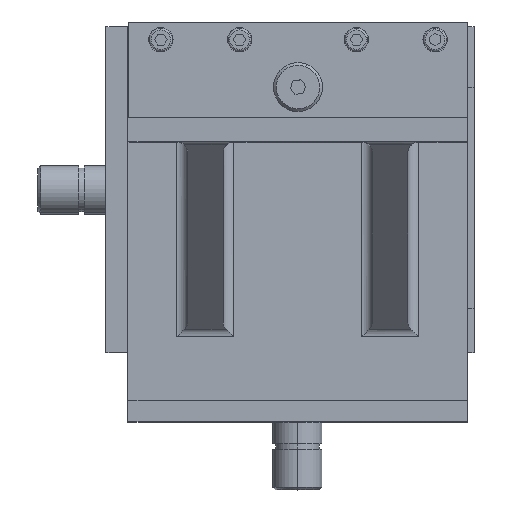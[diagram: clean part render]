
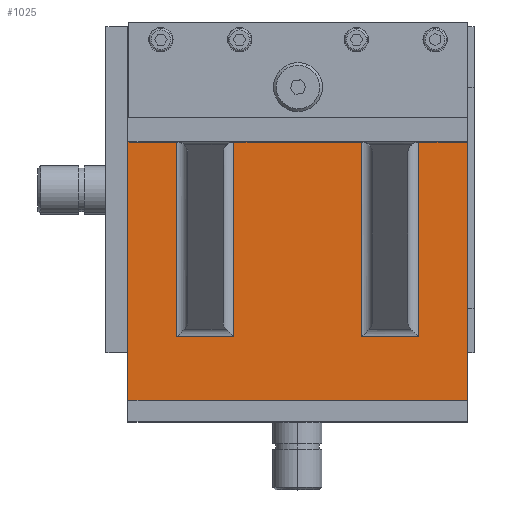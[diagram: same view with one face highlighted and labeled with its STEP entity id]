
A CAD part, top view. The second image highlights one B-rep face of the part: STEP entity #1025.
In plain terms, the highlighted planar face has unit normal (0, 0, 1).
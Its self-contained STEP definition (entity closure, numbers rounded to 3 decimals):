
#1025=ADVANCED_FACE('',(#2519),#2520,.F.);
#2519=FACE_OUTER_BOUND('',#4795,.T.);
#2520=PLANE('',#4796);
#4795=EDGE_LOOP('',(#7175,#7176,#7177,#7178,#7179,#7180,#7181,#7182,#7183,#7184,#7185,#7186));
#4796=AXIS2_PLACEMENT_3D('',#7187,#7188,#7189);
#7175=ORIENTED_EDGE('',*,*,#12531,.T.);
#7176=ORIENTED_EDGE('',*,*,#12521,.T.);
#7177=ORIENTED_EDGE('',*,*,#12545,.T.);
#7178=ORIENTED_EDGE('',*,*,#12547,.T.);
#7179=ORIENTED_EDGE('',*,*,#12539,.T.);
#7180=ORIENTED_EDGE('',*,*,#12548,.T.);
#7181=ORIENTED_EDGE('',*,*,#12549,.T.);
#7182=ORIENTED_EDGE('',*,*,#12550,.T.);
#7183=ORIENTED_EDGE('',*,*,#12535,.T.);
#7184=ORIENTED_EDGE('',*,*,#12551,.F.);
#7185=ORIENTED_EDGE('',*,*,#12552,.F.);
#7186=ORIENTED_EDGE('',*,*,#12553,.T.);
#7187=CARTESIAN_POINT('',(-125.082,-104.0,-112.5));
#7188=DIRECTION('',(0.,0.,-1.0));
#7189=DIRECTION('',(0.0,-1.0,0.));
#12521=EDGE_CURVE('',#14753,#14768,#14770,.T.);
#12531=EDGE_CURVE('',#14785,#14753,#14786,.T.);
#12535=EDGE_CURVE('',#14793,#14791,#14794,.T.);
#12539=EDGE_CURVE('',#14801,#14799,#14802,.T.);
#12545=EDGE_CURVE('',#14768,#14807,#14809,.T.);
#12547=EDGE_CURVE('',#14807,#14801,#14811,.T.);
#12548=EDGE_CURVE('',#14799,#14812,#14813,.T.);
#12549=EDGE_CURVE('',#14812,#14814,#14815,.T.);
#12550=EDGE_CURVE('',#14814,#14793,#14816,.T.);
#12551=EDGE_CURVE('',#14817,#14791,#14818,.T.);
#12552=EDGE_CURVE('',#14819,#14817,#14820,.T.);
#12553=EDGE_CURVE('',#14819,#14785,#14821,.T.);
#14753=VERTEX_POINT('',#18094);
#14768=VERTEX_POINT('',#18139);
#14770=LINE('',#18151,#18152);
#14785=VERTEX_POINT('',#18189);
#14786=LINE('',#18190,#18191);
#14791=VERTEX_POINT('',#18198);
#14793=VERTEX_POINT('',#18201);
#14794=LINE('',#18202,#18203);
#14799=VERTEX_POINT('',#18210);
#14801=VERTEX_POINT('',#18213);
#14802=LINE('',#18214,#18215);
#14807=VERTEX_POINT('',#18231);
#14809=LINE('',#18243,#18244);
#14811=LINE('',#18246,#18247);
#14812=VERTEX_POINT('',#18248);
#14813=LINE('',#18249,#18250);
#14814=VERTEX_POINT('',#18251);
#14815=LINE('',#18252,#18253);
#14816=LINE('',#18254,#18255);
#14817=VERTEX_POINT('',#18256);
#14818=LINE('',#18257,#18258);
#14819=VERTEX_POINT('',#18259);
#14820=LINE('',#18260,#18261);
#14821=LINE('',#18262,#18263);
#18094=CARTESIAN_POINT('',(-18.082,-9.,-112.5));
#18139=CARTESIAN_POINT('',(-18.082,-80.657,-112.5));
#18151=CARTESIAN_POINT('',(-18.082,-104.0,-112.5));
#18152=VECTOR('',#22883,1000.0);
#18189=CARTESIAN_POINT('',(-0.082,-9.,-112.5));
#18190=CARTESIAN_POINT('',(-0.082,-9.,-112.5));
#18191=VECTOR('',#22888,1000.0);
#18198=CARTESIAN_POINT('',(-125.082,-9.,-112.5));
#18201=CARTESIAN_POINT('',(-107.082,-9.,-112.5));
#18202=CARTESIAN_POINT('',(-0.082,-9.,-112.5));
#18203=VECTOR('',#22892,1000.0);
#18210=CARTESIAN_POINT('',(-86.082,-9.,-112.5));
#18213=CARTESIAN_POINT('',(-39.082,-9.,-112.5));
#18214=CARTESIAN_POINT('',(-0.082,-9.,-112.5));
#18215=VECTOR('',#22896,1000.0);
#18231=CARTESIAN_POINT('',(-39.082,-80.657,-112.5));
#18243=CARTESIAN_POINT('',(-35.082,-80.657,-112.5));
#18244=VECTOR('',#22898,1000.0);
#18246=CARTESIAN_POINT('',(-39.082,-104.0,-112.5));
#18247=VECTOR('',#22899,1000.0);
#18248=CARTESIAN_POINT('',(-86.082,-80.657,-112.5));
#18249=CARTESIAN_POINT('',(-86.082,-104.0,-112.5));
#18250=VECTOR('',#22900,1000.0);
#18251=CARTESIAN_POINT('',(-107.082,-80.657,-112.5));
#18252=CARTESIAN_POINT('',(-125.082,-80.657,-112.5));
#18253=VECTOR('',#22901,1000.0);
#18254=CARTESIAN_POINT('',(-107.082,-104.0,-112.5));
#18255=VECTOR('',#22902,1000.0);
#18256=CARTESIAN_POINT('',(-125.082,-104.0,-112.5));
#18257=CARTESIAN_POINT('',(-125.082,-104.0,-112.5));
#18258=VECTOR('',#22903,1000.0);
#18259=CARTESIAN_POINT('',(-0.082,-104.0,-112.5));
#18260=CARTESIAN_POINT('',(-125.082,-104.0,-112.5));
#18261=VECTOR('',#22904,1000.0);
#18262=CARTESIAN_POINT('',(-0.082,-104.0,-112.5));
#18263=VECTOR('',#22905,1000.0);
#22883=DIRECTION('',(0.,-1.0,0.));
#22888=DIRECTION('',(-1.0,0.,0.));
#22892=DIRECTION('',(-1.0,0.,0.));
#22896=DIRECTION('',(-1.0,0.,0.));
#22898=DIRECTION('',(-1.0,0.,0.));
#22899=DIRECTION('',(0.,1.0,0.));
#22900=DIRECTION('',(0.,-1.0,0.));
#22901=DIRECTION('',(-1.0,0.,0.));
#22902=DIRECTION('',(0.,1.0,0.));
#22903=DIRECTION('',(0.,1.0,0.));
#22904=DIRECTION('',(-1.0,0.,0.));
#22905=DIRECTION('',(0.,1.0,0.));
